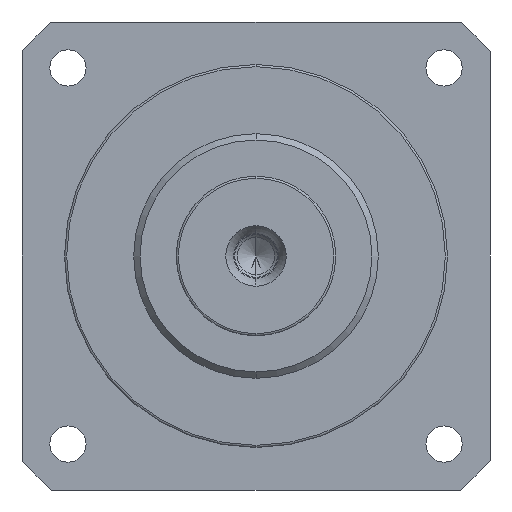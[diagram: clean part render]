
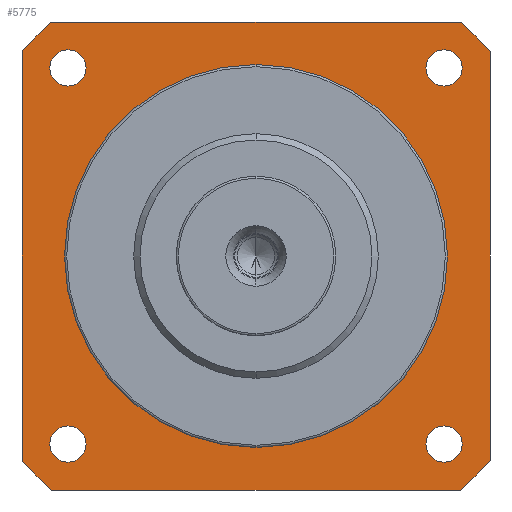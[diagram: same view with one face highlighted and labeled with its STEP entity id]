
A CAD part, left-side view. The second image highlights one B-rep face of the part: STEP entity #5775.
In plain terms, the highlighted planar face has unit normal (-1, 0, 0) as drawn and (0, 0, -1) by its records, which use the part's own axes.
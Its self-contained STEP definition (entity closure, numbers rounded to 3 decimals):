
#4749=CARTESIAN_POINT('',(88.388,-88.388,
0.));
#4750=DIRECTION('',(0.,0.,1.));
#4751=DIRECTION('',(1.,0.,0.));
#4752=AXIS2_PLACEMENT_3D('',#4749,#4750,#4751);
#4754=CARTESIAN_POINT('',(88.388,-88.388,
0.));
#4755=DIRECTION('',(0.,0.,1.));
#4756=DIRECTION('',(-1.,0.,0.));
#4757=AXIS2_PLACEMENT_3D('',#4754,#4755,#4756);
#4759=CARTESIAN_POINT('',(-88.388,-88.388,
0.));
#4760=DIRECTION('',(0.,0.,1.));
#4761=DIRECTION('',(1.,0.,0.));
#4762=AXIS2_PLACEMENT_3D('',#4759,#4760,#4761);
#4764=CARTESIAN_POINT('',(-88.388,-88.388,
0.));
#4765=DIRECTION('',(0.,0.,1.));
#4766=DIRECTION('',(-1.,0.,0.));
#4767=AXIS2_PLACEMENT_3D('',#4764,#4765,#4766);
#4769=CARTESIAN_POINT('',(-88.388,88.388,
0.));
#4770=DIRECTION('',(0.,0.,1.));
#4771=DIRECTION('',(1.,0.,0.));
#4772=AXIS2_PLACEMENT_3D('',#4769,#4770,#4771);
#4774=CARTESIAN_POINT('',(-88.388,88.388,
0.));
#4775=DIRECTION('',(0.,0.,1.));
#4776=DIRECTION('',(-1.,0.,0.));
#4777=AXIS2_PLACEMENT_3D('',#4774,#4775,#4776);
#4779=CARTESIAN_POINT('',(0.,0.,0.));
#4780=DIRECTION('',(0.,0.,1.));
#4781=DIRECTION('',(-0.753,-0.658,0.));
#4782=AXIS2_PLACEMENT_3D('',#4779,#4780,#4781);
#4784=DIRECTION('',(1.,0.,0.));
#4785=VECTOR('',#4784,192.);
#4786=CARTESIAN_POINT('',(-96.,-110.,0.));
#4787=LINE('',#4786,#4785);
#4788=CARTESIAN_POINT('',(0.,0.,0.));
#4789=DIRECTION('',(0.,0.,1.));
#4790=DIRECTION('',(0.658,-0.753,0.));
#4791=AXIS2_PLACEMENT_3D('',#4788,#4789,#4790);
#4793=DIRECTION('',(0.,1.,0.));
#4794=VECTOR('',#4793,192.);
#4795=CARTESIAN_POINT('',(110.,-96.,0.));
#4796=LINE('',#4795,#4794);
#4797=CARTESIAN_POINT('',(0.,0.,0.));
#4798=DIRECTION('',(0.,0.,1.));
#4799=DIRECTION('',(0.753,0.658,0.));
#4800=AXIS2_PLACEMENT_3D('',#4797,#4798,#4799);
#4802=DIRECTION('',(-1.,0.,0.));
#4803=VECTOR('',#4802,192.);
#4804=CARTESIAN_POINT('',(96.,110.,0.));
#4805=LINE('',#4804,#4803);
#4806=CARTESIAN_POINT('',(0.,0.,0.));
#4807=DIRECTION('',(0.,0.,1.));
#4808=DIRECTION('',(-0.658,0.753,0.));
#4809=AXIS2_PLACEMENT_3D('',#4806,#4807,#4808);
#4811=DIRECTION('',(0.,-1.,0.));
#4812=VECTOR('',#4811,192.);
#4813=CARTESIAN_POINT('',(-110.,96.,0.));
#4814=LINE('',#4813,#4812);
#4815=CARTESIAN_POINT('',(0.,0.,0.));
#4816=DIRECTION('',(0.,0.,1.));
#4817=DIRECTION('',(0.,-1.,0.));
#4818=AXIS2_PLACEMENT_3D('',#4815,#4816,#4817);
#4820=CARTESIAN_POINT('',(0.,0.,0.));
#4821=DIRECTION('',(0.,0.,1.));
#4822=DIRECTION('',(0.,1.,0.));
#4823=AXIS2_PLACEMENT_3D('',#4820,#4821,#4822);
#4825=CARTESIAN_POINT('',(88.388,88.388,
0.));
#4826=DIRECTION('',(0.,0.,1.));
#4827=DIRECTION('',(1.,0.,0.));
#4828=AXIS2_PLACEMENT_3D('',#4825,#4826,#4827);
#4830=CARTESIAN_POINT('',(88.388,88.388,
0.));
#4831=DIRECTION('',(0.,0.,1.));
#4832=DIRECTION('',(-1.,0.,0.));
#4833=AXIS2_PLACEMENT_3D('',#4830,#4831,#4832);
#5521=CARTESIAN_POINT('',(-110.,-96.,0.));
#5522=CARTESIAN_POINT('',(-96.,-110.,0.));
#5523=VERTEX_POINT('',#5521);
#5524=VERTEX_POINT('',#5522);
#5525=CARTESIAN_POINT('',(96.,-110.,0.));
#5526=VERTEX_POINT('',#5525);
#5527=CARTESIAN_POINT('',(110.,-96.,0.));
#5528=VERTEX_POINT('',#5527);
#5529=CARTESIAN_POINT('',(110.,96.,0.));
#5530=VERTEX_POINT('',#5529);
#5531=CARTESIAN_POINT('',(96.,110.,0.));
#5532=VERTEX_POINT('',#5531);
#5533=CARTESIAN_POINT('',(-96.,110.,0.));
#5534=VERTEX_POINT('',#5533);
#5535=CARTESIAN_POINT('',(-110.,96.,0.));
#5536=VERTEX_POINT('',#5535);
#5537=CARTESIAN_POINT('',(0.,-90.,0.));
#5538=CARTESIAN_POINT('',(0.,90.,0.));
#5539=VERTEX_POINT('',#5537);
#5540=VERTEX_POINT('',#5538);
#5653=CARTESIAN_POINT('',(96.888,88.388,
0.));
#5654=CARTESIAN_POINT('',(79.888,88.388,
0.));
#5655=VERTEX_POINT('',#5653);
#5656=VERTEX_POINT('',#5654);
#5661=CARTESIAN_POINT('',(-79.888,88.388,
0.));
#5662=CARTESIAN_POINT('',(-96.888,88.388,
0.));
#5663=VERTEX_POINT('',#5661);
#5664=VERTEX_POINT('',#5662);
#5669=CARTESIAN_POINT('',(-79.888,-88.388,
0.));
#5670=CARTESIAN_POINT('',(-96.888,-88.388,
0.));
#5671=VERTEX_POINT('',#5669);
#5672=VERTEX_POINT('',#5670);
#5677=CARTESIAN_POINT('',(96.888,-88.388,
0.));
#5678=CARTESIAN_POINT('',(79.888,-88.388,
0.));
#5679=VERTEX_POINT('',#5677);
#5680=VERTEX_POINT('',#5678);
#5723=CARTESIAN_POINT('',(0.,0.,0.));
#5724=DIRECTION('',(0.,0.,1.));
#5725=DIRECTION('',(0.,1.,0.));
#5726=AXIS2_PLACEMENT_3D('',#5723,#5724,#5725);
#5727=PLANE('',#5726);
#5729=ORIENTED_EDGE('',*,*,#5728,.T.);
#5731=ORIENTED_EDGE('',*,*,#5730,.T.);
#5733=ORIENTED_EDGE('',*,*,#5732,.T.);
#5735=ORIENTED_EDGE('',*,*,#5734,.T.);
#5737=ORIENTED_EDGE('',*,*,#5736,.T.);
#5739=ORIENTED_EDGE('',*,*,#5738,.T.);
#5741=ORIENTED_EDGE('',*,*,#5740,.T.);
#5743=ORIENTED_EDGE('',*,*,#5742,.T.);
#5744=EDGE_LOOP('',(#5729,#5731,#5733,#5735,#5737,#5739,#5741,#5743));
#5745=FACE_OUTER_BOUND('',#5744,.F.);
#5747=ORIENTED_EDGE('',*,*,#5746,.F.);
#5749=ORIENTED_EDGE('',*,*,#5748,.F.);
#5750=EDGE_LOOP('',(#5747,#5749));
#5751=FACE_BOUND('',#5750,.F.);
#5753=ORIENTED_EDGE('',*,*,#5752,.F.);
#5755=ORIENTED_EDGE('',*,*,#5754,.F.);
#5756=EDGE_LOOP('',(#5753,#5755));
#5757=FACE_BOUND('',#5756,.F.);
#5759=ORIENTED_EDGE('',*,*,#5758,.F.);
#5761=ORIENTED_EDGE('',*,*,#5760,.F.);
#5762=EDGE_LOOP('',(#5759,#5761));
#5763=FACE_BOUND('',#5762,.F.);
#5764=ORIENTED_EDGE('',*,*,#5712,.F.);
#5766=ORIENTED_EDGE('',*,*,#5765,.F.);
#5767=EDGE_LOOP('',(#5764,#5766));
#5768=FACE_BOUND('',#5767,.F.);
#5770=ORIENTED_EDGE('',*,*,#5769,.F.);
#5772=ORIENTED_EDGE('',*,*,#5771,.F.);
#5773=EDGE_LOOP('',(#5770,#5772));
#5774=FACE_BOUND('',#5773,.F.);
#5775=ADVANCED_FACE('',(#5745,#5751,#5757,#5763,#5768,#5774),#5727,.F.);
#4753=CIRCLE('',#4752,8.5);
#4758=CIRCLE('',#4757,8.5);
#4763=CIRCLE('',#4762,8.5);
#4768=CIRCLE('',#4767,8.5);
#4773=CIRCLE('',#4772,8.5);
#4778=CIRCLE('',#4777,8.5);
#4783=CIRCLE('',#4782,146.);
#4792=CIRCLE('',#4791,146.);
#4801=CIRCLE('',#4800,146.);
#4810=CIRCLE('',#4809,146.);
#4819=CIRCLE('',#4818,90.);
#4824=CIRCLE('',#4823,90.);
#4829=CIRCLE('',#4828,8.5);
#4834=CIRCLE('',#4833,8.5);
#5712=EDGE_CURVE('',#5539,#5540,#4819,.T.);
#5728=EDGE_CURVE('',#5523,#5524,#4783,.T.);
#5730=EDGE_CURVE('',#5524,#5526,#4787,.T.);
#5732=EDGE_CURVE('',#5526,#5528,#4792,.T.);
#5734=EDGE_CURVE('',#5528,#5530,#4796,.T.);
#5736=EDGE_CURVE('',#5530,#5532,#4801,.T.);
#5738=EDGE_CURVE('',#5532,#5534,#4805,.T.);
#5740=EDGE_CURVE('',#5534,#5536,#4810,.T.);
#5742=EDGE_CURVE('',#5536,#5523,#4814,.T.);
#5746=EDGE_CURVE('',#5671,#5672,#4763,.T.);
#5748=EDGE_CURVE('',#5672,#5671,#4768,.T.);
#5752=EDGE_CURVE('',#5663,#5664,#4773,.T.);
#5754=EDGE_CURVE('',#5664,#5663,#4778,.T.);
#5758=EDGE_CURVE('',#5679,#5680,#4753,.T.);
#5760=EDGE_CURVE('',#5680,#5679,#4758,.T.);
#5765=EDGE_CURVE('',#5540,#5539,#4824,.T.);
#5769=EDGE_CURVE('',#5655,#5656,#4829,.T.);
#5771=EDGE_CURVE('',#5656,#5655,#4834,.T.);
